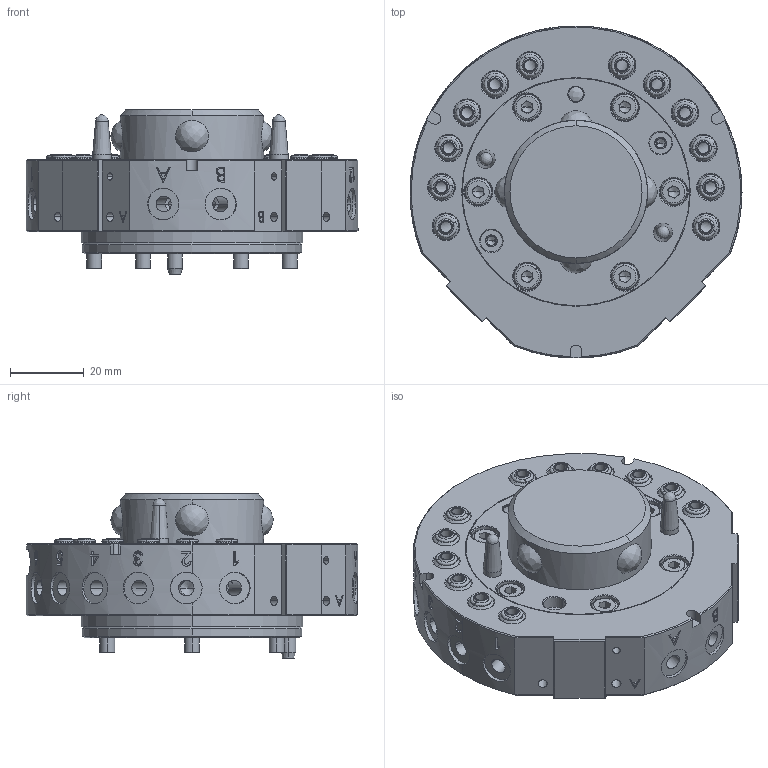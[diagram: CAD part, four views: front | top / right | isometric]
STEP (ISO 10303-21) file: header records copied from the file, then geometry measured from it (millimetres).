
FILE_DESCRIPTION (( 'STEP AP203' ), '1' );
FILE_NAME ('QCA-25R.STEP', '2024-03-19T08:02:01', ( '微软用户' ), ( '微软中国' ), 'SwSTEP 2.0', 'SolidWorks 2018', '' );
FILE_SCHEMA (( 'CONFIG_CONTROL_DESIGN' ));
Length unit declared in the file: millimetre
Products named in the file (1): QCA-25R
Bounding box: 90 x 90 x 44.46 mm (x, y, z)
Volume: 148862.4 mm3; surface area: 35000.2 mm2
Topology: 15 solids, 41 shells, 1315 faces, 3027 edges, 1854 vertices
Faces by surface type: plane 409, cone 387, cylinder 375, bspline 144
Entity records: 60980 total; most frequent: CARTESIAN_POINT 32867, ORIENTED_EDGE 5930, DIRECTION 5362, EDGE_CURVE 2965, AXIS2_PLACEMENT_3D 2013, VERTEX_POINT 1854, EDGE_LOOP 1513, LINE 1336
